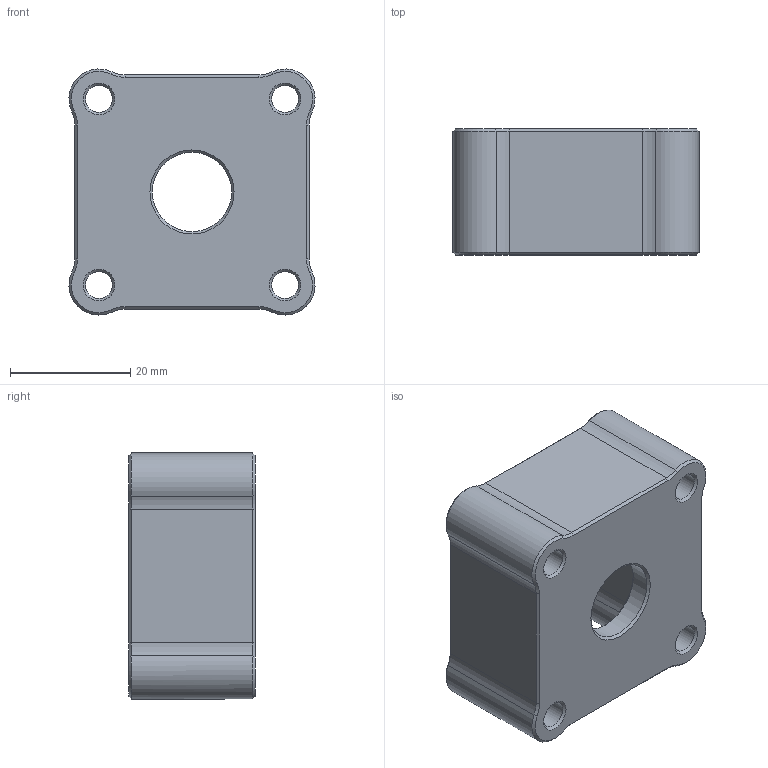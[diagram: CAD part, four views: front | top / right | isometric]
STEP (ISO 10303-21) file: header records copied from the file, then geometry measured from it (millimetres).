
FILE_DESCRIPTION(/* description */ (''),/* implementation_level */ '2;1');
FILE_NAME(/* name */ 'OPTIONAL Double Shear.step',/* time_stamp */ '2025-10-20T11:50:44+01:00',/* author */ (''),/* organization */ (''),/* preprocessor_version */ 'ST-DEVELOPER v20.1',/* originating_system */ 'Autodesk Translation Framework v14.17.0.0',/* authorisation */ '');
FILE_SCHEMA (('AUTOMOTIVE_DESIGN { 1 0 10303 214 3 1 1 }'));
Length unit declared in the file: millimetre
Products named in the file (1): OPTIONAL Double Shear
Bounding box: 40.99 x 21 x 41 mm (x, y, z)
Volume: 18873 mm3; surface area: 8204.9 mm2
Topology: 1 solids, 1 shells, 73 faces, 172 edges, 101 vertices
Faces by surface type: cone 32, cylinder 21, plane 20
Full cylindrical faces by diameter (mm): 4.5 x4, 13.2 x1
Entity records: 2135 total; most frequent: DIRECTION 397, CARTESIAN_POINT 347, ORIENTED_EDGE 344, EDGE_CURVE 172, AXIS2_PLACEMENT_3D 151, VERTEX_POINT 101, LINE 95, VECTOR 95
